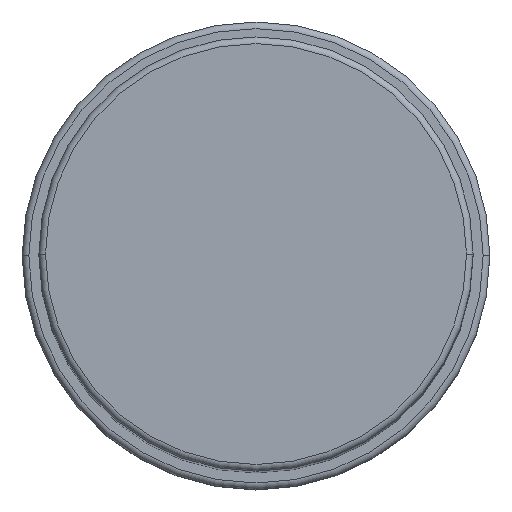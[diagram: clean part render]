
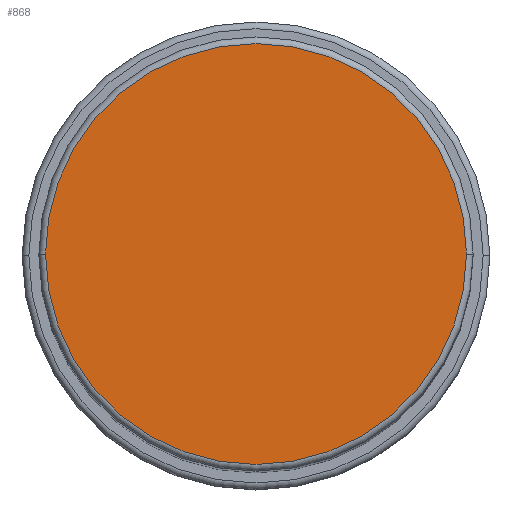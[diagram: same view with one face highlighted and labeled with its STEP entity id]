
A CAD part, top view. The second image highlights one B-rep face of the part: STEP entity #868.
In plain terms, the highlighted planar face has unit normal (0, 0, 1).
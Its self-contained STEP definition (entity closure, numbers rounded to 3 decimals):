
#29 = ORIENTED_EDGE ( 'NONE', *, *, #1285, .T. ) ;
#198 = CARTESIAN_POINT ( 'NONE',  ( -31.5, 0., 168. ) ) ;
#200 = VERTEX_POINT ( 'NONE', #198 ) ;
#217 = DIRECTION ( 'NONE',  ( 0., 0., 1. ) ) ;
#273 = CIRCLE ( 'NONE', #941, 31.5 ) ;
#300 = EDGE_LOOP ( 'NONE', ( #1516, #29 ) ) ;
#637 = AXIS2_PLACEMENT_3D ( 'NONE', #801, #1467, #1207 ) ;
#643 = AXIS2_PLACEMENT_3D ( 'NONE', #1603, #696, #1464 ) ;
#696 = DIRECTION ( 'NONE',  ( 0., 0., 1. ) ) ;
#707 = FACE_OUTER_BOUND ( 'NONE', #300, .T. ) ;
#801 = CARTESIAN_POINT ( 'NONE',  ( 0., 0., 168. ) ) ;
#850 = CARTESIAN_POINT ( 'NONE',  ( 0., 0., 168. ) ) ;
#858 = CIRCLE ( 'NONE', #637, 31.5 ) ;
#868 = ADVANCED_FACE ( 'NONE', ( #707 ), #949, .T. ) ;
#941 = AXIS2_PLACEMENT_3D ( 'NONE', #850, #217, #1123 ) ;
#949 = PLANE ( 'NONE',  #643 ) ;
#1069 = EDGE_CURVE ( 'NONE', #1173, #200, #858, .T. ) ;
#1123 = DIRECTION ( 'NONE',  ( 1., 0., 0. ) ) ;
#1173 = VERTEX_POINT ( 'NONE', #1487 ) ;
#1207 = DIRECTION ( 'NONE',  ( 1., 0., 0. ) ) ;
#1285 = EDGE_CURVE ( 'NONE', #200, #1173, #273, .T. ) ;
#1464 = DIRECTION ( 'NONE',  ( 1., 0., 0. ) ) ;
#1467 = DIRECTION ( 'NONE',  ( 0., 0., 1. ) ) ;
#1487 = CARTESIAN_POINT ( 'NONE',  ( 31.5, 0., 168. ) ) ;
#1516 = ORIENTED_EDGE ( 'NONE', *, *, #1069, .T. ) ;
#1603 = CARTESIAN_POINT ( 'NONE',  ( 0., 0., 168. ) ) ;
